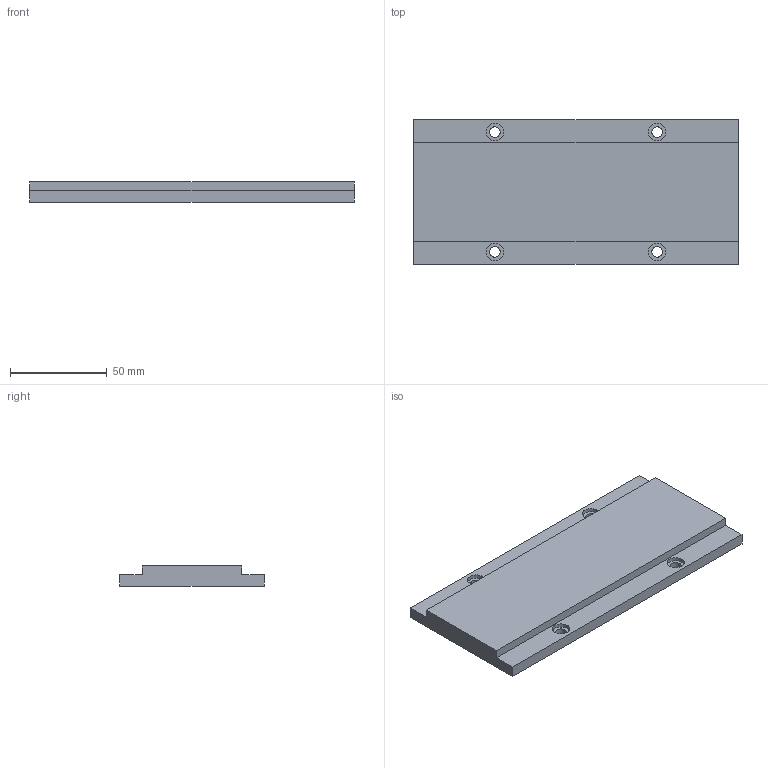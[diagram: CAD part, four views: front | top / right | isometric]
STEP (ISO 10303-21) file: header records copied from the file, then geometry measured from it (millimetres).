
FILE_DESCRIPTION (( 'STEP AP214' ), '1' );
FILE_NAME ('TLS-75-L168¶¨×Ó.STEP', '2021-04-28T08:10:27', ( '' ), ( '' ), 'SwSTEP 2.0', 'SolidWorks 2016', '' );
FILE_SCHEMA (( 'AUTOMOTIVE_DESIGN' ));
Length unit declared in the file: millimetre
Products named in the file (1): TLS-75-L168隅赽
Bounding box: 168 x 75 x 10.5 mm (x, y, z)
Volume: 113644.9 mm3; surface area: 30404.1 mm2
Topology: 1 solids, 1 shells, 30 faces, 72 edges, 48 vertices
Faces by surface type: cylinder 16, plane 14
Entity records: 938 total; most frequent: DIRECTION 166, CARTESIAN_POINT 151, ORIENTED_EDGE 144, EDGE_CURVE 72, AXIS2_PLACEMENT_3D 63, VERTEX_POINT 48, EDGE_LOOP 42, VECTOR 40
